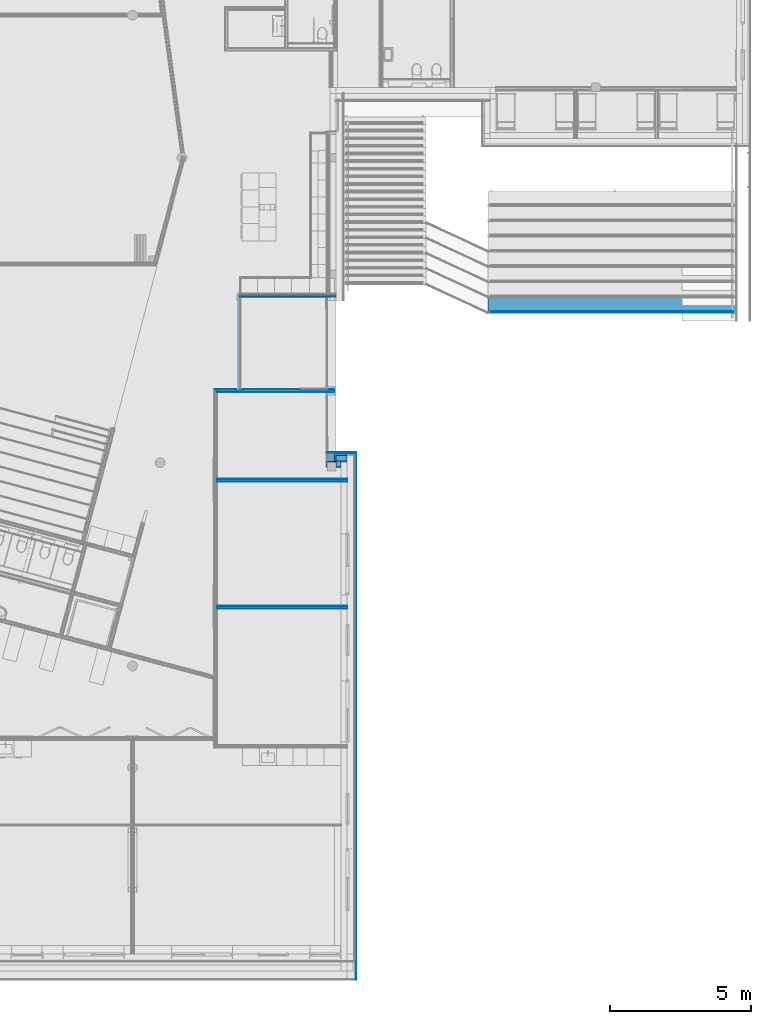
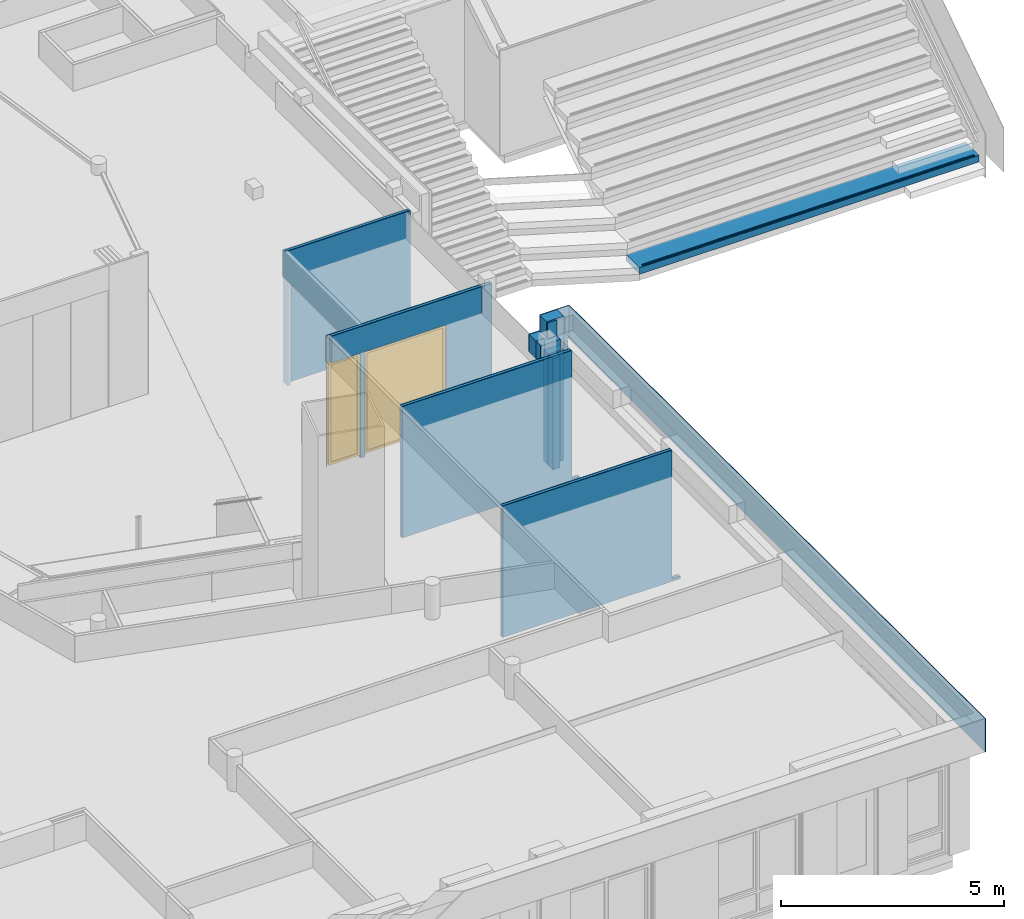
# One storey, part 67 of 167: 20 building element parts, 2 windows, 5 openings, 10 elements without a shape of their own, plus 2 elements that do not belong to this part.
"""IFC2X3 building model written with IfcOpenShell, lengths in millimetres."""

from ifc_helpers import new_model, entity, si_unit, converted_unit, derived_unit, money_unit, direction, frame, origin_with_axes, place, context, subcontext, project, spatial, open_shell, faceted_brep, surface_model, material, type_object, element, fill, aggregate, save


model = new_model("IFC2X3")

# Units and contexts
model_context = context("Model", 3, precision=0.01, world=origin_with_axes(), true_north=direction((0.0, 1.0)))
plan_context = context("Plan", 3, precision=0.01, world=origin_with_axes(), true_north=direction((0.0, 1.0)))
body_context = subcontext(model_context, "Body", "Model", "MODEL_VIEW")
ifc_project = project(units=[si_unit("LENGTHUNIT", "METRE", prefix="MILLI"), si_unit("AREAUNIT", "SQUARE_METRE"), si_unit("VOLUMEUNIT", "CUBIC_METRE"), converted_unit("PLANEANGLEUNIT", "DEGREE", entity("IfcPlaneAngleMeasure", 0.0174532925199), si_unit("PLANEANGLEUNIT", "RADIAN"), dimensions=[0, 0, 0, 0, 0, 0, 0]), si_unit("SOLIDANGLEUNIT", "STERADIAN"), money_unit("EUR"), converted_unit("TIMEUNIT", "Year", entity("IfcTimeMeasure", 31556926.0), si_unit("TIMEUNIT", "SECOND"), dimensions=[0, 0, 1, 0, 0, 0, 0]), si_unit("MASSUNIT", "GRAM", prefix="KILO"), si_unit("THERMODYNAMICTEMPERATUREUNIT", "DEGREE_CELSIUS"), si_unit("LUMINOUSINTENSITYUNIT", "LUMEN"), si_unit("ENERGYUNIT", "JOULE", prefix="MEGA"), derived_unit("THERMALCONDUCTANCEUNIT", [(si_unit("POWERUNIT", "WATT"), 1), (si_unit("LENGTHUNIT", "METRE"), -1), (si_unit("THERMODYNAMICTEMPERATUREUNIT", "KELVIN"), -1)]), derived_unit("SPECIFICHEATCAPACITYUNIT", [(si_unit("ENERGYUNIT", "JOULE"), 1), (si_unit("MASSUNIT", "GRAM", prefix="KILO"), -1), (si_unit("THERMODYNAMICTEMPERATUREUNIT", "KELVIN"), -1)]), derived_unit("MASSDENSITYUNIT", [(si_unit("MASSUNIT", "GRAM", prefix="KILO"), 1), (si_unit("VOLUMEUNIT", "CUBIC_METRE"), -1)])], contexts=[model_context, plan_context])

# Site, building, storey
site_placement = place(None, origin_with_axes())
site = spatial("IfcSite", under=ifc_project, at=site_placement, Name="Site", CompositionType="ELEMENT")
building_placement = place(site_placement, origin_with_axes())
building = spatial("IfcBuilding", under=site, at=building_placement, Name="Naam gebouw", CompositionType="ELEMENT")
storey_placement = place(building_placement, origin_with_axes())
storey = spatial("IfcBuildingStorey", under=building, at=storey_placement, Name="Begane grond", CompositionType="ELEMENT", Elevation=0.0)

# Window
window_style = type_object("IfcWindowStyle", Name="R1 24", ConstructionType="NOTDEFINED", OperationType="SINGLE_PANEL", ParameterTakesPrecedence=False, Sizeable=False)
wall_4_placement = place(storey_placement, frame((28750.0, 20550.0, -100.0), z_axis=(0.0, 0.0, 1.0), x_axis=(-1.0, 0.0, 0.0)))
opening_3_placement = place(wall_4_placement, frame((3814.63306518, 0.0, 100.0), z_axis=(0.0, 0.0, 1.0), x_axis=(1.0, 0.0, 0.0)))
window_1_placement = place(opening_3_placement, frame((406.396380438, 0.0, 0.0), z_axis=(0.0, 0.0, 1.0), x_axis=(-1.0, 0.0, 0.0)))
window_1 = element("IfcWindow", 1, at=window_1_placement, inside=storey, type_object=window_style, Name="31_Raam_Hi-29", ObjectType="WINDOW", OverallHeight=2800.0, OverallWidth=812.793, context=body_context, shape_type="SurfaceModel", body=[
    faceted_brep([(745.792760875, -30.0, 2733.0), (812.792760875, -30.0, 2733.0), (812.792760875, 50.0, 2733.0), (745.792760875, 50.0, 2733.0), (745.792760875, -30.0, 67.0), (812.792760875, -30.0, 67.0), (812.792760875, 50.0, 67.0), (745.792760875, 50.0, 67.0)], [[[0, 1, 2, 3]], [[0, 4, 5, 1]], [[1, 5, 6, 2]], [[3, 2, 6, 7]], [[4, 0, 3, 7]], [[5, 4, 7, 6]]]),
    faceted_brep([(67.0, -30.0, 67.0), (0.0, -30.0, 67.0), (0.0, 50.0, 67.0), (67.0, 50.0, 67.0), (67.0, -30.0, 2733.0), (0.0, -30.0, 2733.0), (0.0, 50.0, 2733.0), (67.0, 50.0, 2733.0)], [[[0, 1, 2, 3]], [[0, 4, 5, 1]], [[1, 5, 6, 2]], [[3, 2, 6, 7]], [[4, 0, 3, 7]], [[5, 4, 7, 6]]]),
    faceted_brep([(745.792760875, -30.0, 67.0), (812.792760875, -30.0, 67.0), (812.792760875, 50.0, 67.0), (745.792760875, 50.0, 67.0), (67.0, -30.0, 67.0), (0.0, -30.0, 67.0), (0.0, -30.0, 0.0), (812.792760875, -30.0, 0.0), (812.792760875, 50.0, 0.0), (0.0, 50.0, 0.0), (0.0, 50.0, 67.0), (67.0, 50.0, 67.0)], [[[0, 1, 2, 3]], [[0, 4, 5, 6, 7, 1]], [[1, 7, 8, 2]], [[3, 2, 8, 9, 10, 11]], [[4, 0, 3, 11]], [[5, 4, 11, 10]], [[6, 5, 10, 9]], [[7, 6, 9, 8]]]),
    faceted_brep([(67.0, -30.0, 2733.0), (0.0, -30.0, 2733.0), (0.0, 50.0, 2733.0), (67.0, 50.0, 2733.0), (745.792760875, -30.0, 2733.0), (812.792760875, -30.0, 2733.0), (812.792760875, -30.0, 2800.0), (0.0, -30.0, 2800.0), (0.0, 50.0, 2800.0), (812.792760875, 50.0, 2800.0), (812.792760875, 50.0, 2733.0), (745.792760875, 50.0, 2733.0)], [[[0, 1, 2, 3]], [[0, 4, 5, 6, 7, 1]], [[1, 7, 8, 2]], [[3, 2, 8, 9, 10, 11]], [[4, 0, 3, 11]], [[5, 4, 11, 10]], [[6, 5, 10, 9]], [[7, 6, 9, 8]]]),
    surface_model("IfcShellBasedSurfaceModel", [(745.792760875, -14.0, 67.0), (745.792760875, -14.0, 2733.0), (67.0, -14.0, 2733.0), (67.0, -14.0, 67.0)], [open_shell([[[0, 1, 2, 3]]])]),
    surface_model("IfcShellBasedSurfaceModel", [(745.792760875, 6.0, 67.0), (67.0, 6.0, 67.0), (67.0, 6.0, 2733.0), (745.792760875, 6.0, 2733.0)], [open_shell([[[0, 1, 2, 3]]])]),
])

opening_4_placement = place(wall_4_placement, frame((2240.55768609, 0.0, 100.0), z_axis=(0.0, 0.0, 1.0), x_axis=(1.0, 0.0, 0.0)))
window_2_placement = place(opening_4_placement, frame((1050.0, 0.0, 0.0), z_axis=(0.0, 0.0, 1.0), x_axis=(-1.0, 0.0, 0.0)))
window_2 = element("IfcWindow", 2, at=window_2_placement, inside=storey, type_object=window_style, Name="31_Raam_Hi-33", ObjectType="WINDOW", OverallHeight=2800.0, OverallWidth=2100.0, context=body_context, shape_type="SurfaceModel", body=[
    faceted_brep([(2033.0, -30.0, 2733.0), (2100.0, -30.0, 2733.0), (2100.0, 50.0, 2733.0), (2033.0, 50.0, 2733.0), (2033.0, -30.0, 67.0), (2100.0, -30.0, 67.0), (2100.0, 50.0, 67.0), (2033.0, 50.0, 67.0)], [[[0, 1, 2, 3]], [[0, 4, 5, 1]], [[1, 5, 6, 2]], [[3, 2, 6, 7]], [[4, 0, 3, 7]], [[5, 4, 7, 6]]]),
    faceted_brep([(67.0, -30.0, 67.0), (0.0, -30.0, 67.0), (0.0, 50.0, 67.0), (67.0, 50.0, 67.0), (67.0, -30.0, 2733.0), (0.0, -30.0, 2733.0), (0.0, 50.0, 2733.0), (67.0, 50.0, 2733.0)], [[[0, 1, 2, 3]], [[0, 4, 5, 1]], [[1, 5, 6, 2]], [[3, 2, 6, 7]], [[4, 0, 3, 7]], [[5, 4, 7, 6]]]),
    faceted_brep([(2033.0, -30.0, 67.0), (2100.0, -30.0, 67.0), (2100.0, 50.0, 67.0), (2033.0, 50.0, 67.0), (67.0, -30.0, 67.0), (0.0, -30.0, 67.0), (0.0, -30.0, 0.0), (2100.0, -30.0, 0.0), (2100.0, 50.0, 0.0), (0.0, 50.0, 0.0), (0.0, 50.0, 67.0), (67.0, 50.0, 67.0)], [[[0, 1, 2, 3]], [[0, 4, 5, 6, 7, 1]], [[1, 7, 8, 2]], [[3, 2, 8, 9, 10, 11]], [[4, 0, 3, 11]], [[5, 4, 11, 10]], [[6, 5, 10, 9]], [[7, 6, 9, 8]]]),
    faceted_brep([(67.0, -30.0, 2733.0), (0.0, -30.0, 2733.0), (0.0, 50.0, 2733.0), (67.0, 50.0, 2733.0), (2033.0, -30.0, 2733.0), (2100.0, -30.0, 2733.0), (2100.0, -30.0, 2800.0), (0.0, -30.0, 2800.0), (0.0, 50.0, 2800.0), (2100.0, 50.0, 2800.0), (2100.0, 50.0, 2733.0), (2033.0, 50.0, 2733.0)], [[[0, 1, 2, 3]], [[0, 4, 5, 6, 7, 1]], [[1, 7, 8, 2]], [[3, 2, 8, 9, 10, 11]], [[4, 0, 3, 11]], [[5, 4, 11, 10]], [[6, 5, 10, 9]], [[7, 6, 9, 8]]]),
    surface_model("IfcShellBasedSurfaceModel", [(2033.0, -14.0, 67.0), (2033.0, -14.0, 2733.0), (67.0, -14.0, 2733.0), (67.0, -14.0, 67.0)], [open_shell([[[0, 1, 2, 3]]])]),
    surface_model("IfcShellBasedSurfaceModel", [(2033.0, 6.0, 67.0), (67.0, 6.0, 67.0), (67.0, 6.0, 2733.0), (2033.0, 6.0, 2733.0)], [open_shell([[[0, 1, 2, 3]]])]),
])

# Wall, openings, building element part
wall_type_1 = type_object("IfcWallType", Name="_TenW_21_E-BOARD_V1_standaard 538", PredefinedType="NOTDEFINED")
wall_1_placement = place(storey_placement, frame((29200.0, 0.0, 3050.0), z_axis=(0.0, 0.0, 1.0), x_axis=(0.0, 1.0, 0.0)))
wall_1 = element("IfcWall", 3, at=wall_1_placement, inside=storey, type_object=wall_type_1, Name="21_Wand_Wand-x")
opening_1_placement = place(wall_1_placement, frame((0.0, 29200.0, -3050.0), z_axis=(0.0, 0.0, 1.0), x_axis=(0.0, -1.0, 0.0)))
element("IfcOpeningElement", 4, at=opening_1_placement, cuts=wall_1, Name="_Lege opening_Doorvoer-x", context=body_context, shape_type="Brep", body=[
    faceted_brep([(29400.0, 8111.53471311, 3050.0), (29400.0, 8111.53471311, 3530.0), (28986.0, 8111.53471311, 3530.0), (28986.0, 8111.53471311, 3050.0), (29400.0, 10271.4347131, 3050.0), (29400.0, 10271.4347131, 3530.0), (28986.0, 10271.4347131, 3530.0), (28986.0, 10271.4347131, 3050.0)], [[[0, 1, 2, 3]], [[0, 4, 5, 1]], [[1, 5, 6, 2]], [[3, 2, 6, 7]], [[4, 0, 3, 7]], [[5, 4, 7, 6]]]),
])
opening_2_placement = place(wall_1_placement, frame((0.0, 29200.0, -3050.0), z_axis=(0.0, 0.0, 1.0), x_axis=(0.0, -1.0, 0.0)))
element("IfcOpeningElement", 5, at=opening_2_placement, cuts=wall_1, Name="_Lege opening_Doorvoer-x", context=body_context, shape_type="Brep", body=[
    faceted_brep([(29456.0, 13320.0149885, 3050.0), (29456.0, 13320.0149885, 3530.0), (28986.0, 13320.0149885, 3530.0), (28986.0, 13320.0149885, 3050.0), (29456.0, 15479.9149885, 3050.0), (29456.0, 15479.9149885, 3530.0), (28986.0, 15479.9149885, 3530.0), (28986.0, 15479.9149885, 3050.0)], [[[0, 1, 2, 3]], [[0, 4, 5, 1]], [[1, 5, 6, 2]], [[3, 2, 6, 7]], [[4, 0, 3, 7]], [[5, 4, 7, 6]]]),
])
ifc_material_1 = material(Name="_TenW_21_Steen - Baksteen")
building_element_part_1_placement = place(wall_1_placement, origin_with_axes())
building_element_part_1 = element("IfcBuildingElementPart", 6, at=building_element_part_1_placement, material=ifc_material_1, Name="_TenW_21_Steen - Baksteen", context=body_context, shape_type="Brep", body=[
    faceted_brep([(18374.0, -324.0, 0.0), (-324.0, -324.0, 0.0), (-324.0, -304.0, 0.0), (18374.0, -304.0, 0.0), (18374.0, -324.0, 910.0), (-324.0, -324.0, 910.0), (-324.0, -304.0, 910.0), (18374.0, -304.0, 910.0)], [[[0, 1, 2, 3]], [[4, 5, 1, 0]], [[2, 1, 5, 6]], [[3, 2, 6, 7]], [[3, 7, 4, 0]], [[7, 6, 5, 4]]]),
])
aggregate(wall_1, [building_element_part_1])

# Wall, building element parts
wall_type_2 = type_object("IfcWallType", Name="_TenW_22_Metalstud 100 enkel gipsvezelplaat 100", PredefinedType="NOTDEFINED")
wall_2_placement = place(storey_placement, frame((29200.0, 12875.0, -100.0), z_axis=(0.0, 0.0, 1.0), x_axis=(-1.0, 0.0, 0.0)))
wall_2 = element("IfcWall", 7, at=wall_2_placement, inside=storey, type_object=wall_type_2, Name="22_Wand_Wand-x")
ifc_material_2 = material(Name="Gipsplaat watervast")
building_element_part_2_placement = place(wall_2_placement, origin_with_axes())
building_element_part_2 = element("IfcBuildingElementPart", 8, at=building_element_part_2_placement, material=ifc_material_2, Name="Gipsplaat watervast", context=body_context, shape_type="Brep", body=[
    faceted_brep([(4600.0, 37.5, 3630.0), (214.0, 37.5, 3630.0), (214.0, 37.5, 100.0), (0.0, 37.5, 100.0), (0.0, 37.5, 30.0), (4600.0, 37.5, 30.0), (214.0, 50.0, 3630.0), (4600.0, 50.0, 3630.0), (214.0, 50.0, 100.0), (0.0, 50.0, 100.0), (0.0, 50.0, 30.0), (4600.0, 50.0, 30.0)], [[[0, 1, 2, 3, 4, 5]], [[6, 1, 0, 7]], [[1, 6, 8, 2]], [[8, 9, 3, 2]], [[10, 4, 3, 9]], [[5, 4, 10, 11]], [[7, 0, 5, 11]], [[6, 7, 11, 10, 9, 8]]]),
])
ifc_material_3 = material(Name="Isolatie - Steenwol zacht")
building_element_part_3_placement = place(wall_2_placement, origin_with_axes())
building_element_part_3 = element("IfcBuildingElementPart", 9, at=building_element_part_3_placement, material=ifc_material_3, Name="Isolatie - Steenwol zacht", context=body_context, shape_type="Brep", body=[
    faceted_brep([(4612.5, -37.5, 3630.0), (214.0, -37.5, 3630.0), (214.0, -37.5, 100.0), (0.0, -37.5, 100.0), (0.0, -37.5, 30.0), (4612.5, -37.5, 30.0), (214.0, 37.5, 3630.0), (4612.5, 37.5, 3630.0), (214.0, 37.5, 100.0), (0.0, 37.5, 100.0), (0.0, 37.5, 30.0), (4612.5, 37.5, 30.0)], [[[0, 1, 2, 3, 4, 5]], [[6, 1, 0, 7]], [[1, 6, 8, 2]], [[8, 9, 3, 2]], [[10, 4, 3, 9]], [[5, 4, 10, 11]], [[7, 0, 5, 11]], [[6, 7, 11, 10, 9, 8]]]),
])
building_element_part_4_placement = place(wall_2_placement, origin_with_axes())
building_element_part_4 = element("IfcBuildingElementPart", 10, at=building_element_part_4_placement, material=ifc_material_2, Name="Gipsplaat watervast", context=body_context, shape_type="Brep", body=[
    faceted_brep([(4600.0, -50.0, 3630.0), (214.0, -50.0, 3630.0), (214.0, -50.0, 100.0), (0.0, -50.0, 100.0), (0.0, -50.0, 30.0), (4600.0, -50.0, 30.0), (214.0, -37.5, 3630.0), (4600.0, -37.5, 3630.0), (214.0, -37.5, 100.0), (0.0, -37.5, 100.0), (0.0, -37.5, 30.0), (4600.0, -37.5, 30.0)], [[[0, 1, 2, 3, 4, 5]], [[6, 1, 0, 7]], [[1, 6, 8, 2]], [[8, 9, 3, 2]], [[10, 4, 3, 9]], [[5, 4, 10, 11]], [[7, 0, 5, 11]], [[6, 7, 11, 10, 9, 8]]]),
])
aggregate(wall_2, [building_element_part_2, building_element_part_3, building_element_part_4])

wall_3_placement = place(storey_placement, frame((29200.0, 17375.0, -100.0), z_axis=(0.0, 0.0, 1.0), x_axis=(-1.0, 0.0, 0.0)))
wall_3 = element("IfcWall", 11, at=wall_3_placement, inside=storey, type_object=wall_type_2, Name="22_Wand_Wand-x")
building_element_part_5_placement = place(wall_3_placement, origin_with_axes())
building_element_part_5 = element("IfcBuildingElementPart", 12, at=building_element_part_5_placement, material=ifc_material_2, Name="Gipsplaat watervast", context=body_context, shape_type="Brep", body=[
    faceted_brep([(4600.0, 37.5, 3630.0), (214.0, 37.5, 3630.0), (214.0, 37.5, 100.0), (0.0, 37.5, 100.0), (0.0, 37.5, 30.0), (4600.0, 37.5, 30.0), (214.0, 50.0, 3630.0), (4600.0, 50.0, 3630.0), (214.0, 50.0, 100.0), (0.0, 50.0, 100.0), (0.0, 50.0, 30.0), (4600.0, 50.0, 30.0)], [[[0, 1, 2, 3, 4, 5]], [[6, 1, 0, 7]], [[1, 6, 8, 2]], [[8, 9, 3, 2]], [[10, 4, 3, 9]], [[5, 4, 10, 11]], [[7, 0, 5, 11]], [[6, 7, 11, 10, 9, 8]]]),
])
building_element_part_6_placement = place(wall_3_placement, origin_with_axes())
building_element_part_6 = element("IfcBuildingElementPart", 13, at=building_element_part_6_placement, material=ifc_material_3, Name="Isolatie - Steenwol zacht", context=body_context, shape_type="Brep", body=[
    faceted_brep([(4612.5, -37.5, 3630.0), (214.0, -37.5, 3630.0), (214.0, -37.5, 100.0), (0.0, -37.5, 100.0), (0.0, -37.5, 30.0), (4612.5, -37.5, 30.0), (214.0, 37.5, 3630.0), (4612.5, 37.5, 3630.0), (214.0, 37.5, 100.0), (0.0, 37.5, 100.0), (0.0, 37.5, 30.0), (4612.5, 37.5, 30.0)], [[[0, 1, 2, 3, 4, 5]], [[6, 1, 0, 7]], [[1, 6, 8, 2]], [[8, 9, 3, 2]], [[10, 4, 3, 9]], [[5, 4, 10, 11]], [[7, 0, 5, 11]], [[6, 7, 11, 10, 9, 8]]]),
])
building_element_part_7_placement = place(wall_3_placement, origin_with_axes())
building_element_part_7 = element("IfcBuildingElementPart", 14, at=building_element_part_7_placement, material=ifc_material_2, Name="Gipsplaat watervast", context=body_context, shape_type="Brep", body=[
    faceted_brep([(4600.0, -50.0, 3630.0), (214.0, -50.0, 3630.0), (214.0, -50.0, 100.0), (0.0, -50.0, 100.0), (0.0, -50.0, 30.0), (4600.0, -50.0, 30.0), (214.0, -37.5, 3630.0), (4600.0, -37.5, 3630.0), (214.0, -37.5, 100.0), (0.0, -37.5, 100.0), (0.0, -37.5, 30.0), (4600.0, -37.5, 30.0)], [[[0, 1, 2, 3, 4, 5]], [[6, 1, 0, 7]], [[1, 6, 8, 2]], [[8, 9, 3, 2]], [[10, 4, 3, 9]], [[5, 4, 10, 11]], [[7, 0, 5, 11]], [[6, 7, 11, 10, 9, 8]]]),
])
aggregate(wall_3, [building_element_part_5, building_element_part_6, building_element_part_7])

# Wall, opening
wall_4 = element("IfcWall", 15, at=wall_4_placement, inside=storey, type_object=wall_type_2, Name="22_Wand_Wand-x")
opening_3 = element("IfcOpeningElement", 16, at=opening_3_placement, cuts=wall_4, Name="31_Raam_Hi-29", context=body_context, shape_type="Brep", body=[
    faceted_brep([(406.396380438, -200.0, 2800.0), (406.396380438, -200.0, 0.0), (406.396380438, 100.0, 0.0), (406.396380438, 100.0, 2800.0), (-406.396380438, -200.0, 2800.0), (-406.396380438, -200.0, 0.0), (-406.396380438, 100.0, 0.0), (-406.396380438, 100.0, 2800.0)], [[[0, 1, 2, 3]], [[0, 4, 5, 1]], [[1, 5, 6, 2]], [[3, 2, 6, 7]], [[4, 0, 3, 7]], [[5, 4, 7, 6]]]),
])

fill(opening_3, window_1)

# Opening
opening_4 = element("IfcOpeningElement", 17, at=opening_4_placement, cuts=wall_4, Name="31_Raam_Hi-33", context=body_context, shape_type="Brep", body=[
    faceted_brep([(1050.0, -200.0, 2800.0), (1050.0, -200.0, 0.0), (1050.0, 100.0, 0.0), (1050.0, 100.0, 2800.0), (-1050.0, -200.0, 2800.0), (-1050.0, -200.0, 0.0), (-1050.0, 100.0, 0.0), (-1050.0, 100.0, 2800.0)], [[[0, 1, 2, 3]], [[0, 4, 5, 1]], [[1, 5, 6, 2]], [[3, 2, 6, 7]], [[4, 0, 3, 7]], [[5, 4, 7, 6]]]),
])

fill(opening_4, window_2)

# Building element part
building_element_part_8_placement = place(wall_4_placement, origin_with_axes())
building_element_part_8 = element("IfcBuildingElementPart", 18, at=building_element_part_8_placement, material=ifc_material_2, Name="Gipsplaat watervast", context=body_context, shape_type="Brep", body=[
    faceted_brep([(3408.23668474, 37.5, 2900.0), (4150.0, 37.5, 2900.0), (4150.0, 37.5, 3630.0), (274.635118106, 37.5, 3630.0), (274.635118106, 37.5, 2900.0), (249.635050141, 37.5, 2900.0), (249.635050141, 37.5, 3630.0), (0.0, 37.5, 3630.0), (0.0, 37.5, 30.0), (1190.55768609, 37.5, 30.0), (1190.55768609, 37.5, 100.0), (1190.55768609, 37.5, 2900.0), (3290.55768609, 37.5, 2900.0), (3290.55768609, 37.5, 100.0), (3290.55768609, 37.5, 30.0), (3408.23668474, 37.5, 30.0), (3408.23668474, 37.5, 100.0), (3408.23668474, 50.0000111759, 2900.0), (4149.99998882, 50.0000111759, 2900.0), (4150.0, 50.0, 3630.0), (274.605971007, 50.0, 3630.0), (274.605971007, 50.0, 2900.0), (249.605903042, 50.0, 2900.0), (249.605903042, 50.0, 3630.0), (0.0, 50.0, 3630.0), (0.0, 50.0, 30.0), (1190.55768609, 50.0, 30.0), (1190.55768609, 50.0, 100.0), (1190.55768609, 50.0, 2900.0), (3290.55768609, 50.0, 2900.0), (3290.55768609, 50.0, 100.0), (3290.55768609, 50.0, 30.0), (3408.23668474, 50.0, 30.0), (3408.23668474, 50.0000111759, 100.0)], [[[0, 1, 2, 3, 4, 5, 6, 7, 8, 9, 10, 11, 12, 13, 14, 15, 16]], [[1, 0, 17, 18]], [[1, 18, 19, 2]], [[19, 20, 3, 2]], [[3, 20, 21, 4]], [[4, 21, 22, 5]], [[23, 6, 5, 22]], [[24, 7, 6, 23]], [[7, 24, 25, 8]], [[26, 9, 8, 25]], [[26, 27, 10, 9]], [[28, 11, 10, 27]], [[29, 12, 11, 28]], [[30, 13, 12, 29]], [[14, 13, 30, 31]], [[32, 15, 14, 31]], [[33, 16, 15, 32]], [[0, 16, 33, 17]], [[17, 33, 32, 31, 30, 29, 28, 27, 26, 25, 24, 23, 22, 21, 20, 19, 18]]]),
])

building_element_part_9_placement = place(wall_4_placement, origin_with_axes())
building_element_part_9 = element("IfcBuildingElementPart", 19, at=building_element_part_9_placement, material=ifc_material_3, Name="Isolatie - Steenwol zacht", context=body_context, shape_type="Brep", body=[
    faceted_brep([(3408.23668474, -37.5, 2900.0), (4162.5, -37.5, 2900.0), (4162.5, -37.5, 3630.0), (0.0, -37.5, 3630.0), (0.0, -37.5, 30.0), (1190.55768609, -37.5, 30.0), (1190.55768609, -37.5, 100.0), (1190.55768609, -37.5, 2900.0), (3290.55768609, -37.5, 2900.0), (3290.55768609, -37.5, 100.0), (3290.55768609, -37.5, 30.0), (3408.23668474, -37.5, 30.0), (3408.23668474, -37.5, 100.0), (3408.23668474, 37.5, 2900.0), (4162.5, 37.5, 2900.0), (4162.5, 37.5, 3630.0), (0.0, 37.5, 3630.0), (0.0, 37.5, 30.0), (1190.55768609, 37.5, 30.0), (1190.55768609, 37.5, 100.0), (1190.55768609, 37.5, 2900.0), (3290.55768609, 37.5, 2900.0), (3290.55768609, 37.5, 100.0), (3290.55768609, 37.5, 30.0), (3408.23668474, 37.5, 30.0), (3408.23668474, 37.5, 100.0)], [[[0, 1, 2, 3, 4, 5, 6, 7, 8, 9, 10, 11, 12]], [[1, 0, 13, 14]], [[1, 14, 15, 2]], [[16, 3, 2, 15]], [[3, 16, 17, 4]], [[18, 5, 4, 17]], [[18, 19, 6, 5]], [[20, 7, 6, 19]], [[21, 8, 7, 20]], [[22, 9, 8, 21]], [[10, 9, 22, 23]], [[24, 11, 10, 23]], [[25, 12, 11, 24]], [[0, 12, 25, 13]], [[13, 25, 24, 23, 22, 21, 20, 19, 18, 17, 16, 15, 14]]]),
])

building_element_part_10_placement = place(wall_4_placement, origin_with_axes())
building_element_part_10 = element("IfcBuildingElementPart", 20, at=building_element_part_10_placement, material=ifc_material_2, Name="Gipsplaat watervast", context=body_context, shape_type="Brep", body=[
    faceted_brep([(4221.02944562, -50.0, 2900.0), (4221.02944562, -50.0, 100.0), (4221.02944562, -50.0, 30.0), (4237.5, -50.0, 30.0), (4237.5, -50.0, 3630.0), (3403.05768609, -50.0, 3630.0), (3403.05768609, -50.0, 30.0), (3408.23668474, -50.0, 30.0), (3408.23668474, -50.0, 100.0), (3408.23668474, -50.0, 2900.0), (4221.02944562, -37.5, 2900.0), (4221.02944562, -37.5, 100.0), (4221.02944562, -37.5, 30.0), (4237.5, -37.5, 30.0), (4237.5, -37.5, 3630.0), (3403.05768609, -37.5, 3630.0), (3403.05768609, -37.5, 30.0), (3408.23668474, -37.5, 30.0), (3408.23668474, -37.5, 100.0), (3408.23668474, -37.5, 2900.0)], [[[0, 1, 2, 3, 4, 5, 6, 7, 8, 9]], [[1, 0, 10, 11]], [[1, 11, 12, 2]], [[3, 2, 12, 13]], [[13, 14, 4, 3]], [[14, 15, 5, 4]], [[6, 5, 15, 16]], [[16, 17, 7, 6]], [[18, 8, 7, 17]], [[9, 8, 18, 19]], [[0, 9, 19, 10]], [[19, 18, 17, 16, 15, 14, 13, 12, 11, 10]]]),
    faceted_brep([(3290.55768609, -50.0, 2900.0), (3290.55768609, -50.0, 100.0), (3290.55768609, -50.0, 30.0), (3328.05768609, -50.0, 30.0), (3328.05768609, -50.0, 3630.0), (274.839147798, -50.0, 3630.0), (274.839147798, -50.0, 2900.0), (249.839079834, -50.0, 2900.0), (249.839079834, -50.0, 3630.0), (0.0, -50.0, 3630.0), (0.0, -50.0, 30.0), (1190.55768609, -50.0, 30.0), (1190.55768609, -50.0, 100.0), (1190.55768609, -50.0, 2900.0), (3290.55768609, -37.5, 2900.0), (3290.55768609, -37.5, 100.0), (3290.55768609, -37.5, 30.0), (3328.05768609, -37.5, 30.0), (3328.05768609, -37.5, 3630.0), (274.810000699, -37.5, 3630.0), (274.810000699, -37.5, 2900.0), (249.809932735, -37.5, 2900.0), (249.809932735, -37.5, 3630.0), (0.0, -37.5, 3630.0), (0.0, -37.5, 30.0), (1190.55768609, -37.5, 30.0), (1190.55768609, -37.5, 100.0), (1190.55768609, -37.5, 2900.0)], [[[0, 1, 2, 3, 4, 5, 6, 7, 8, 9, 10, 11, 12, 13]], [[1, 0, 14, 15]], [[1, 15, 16, 2]], [[16, 17, 3, 2]], [[4, 3, 17, 18]], [[19, 5, 4, 18]], [[19, 20, 6, 5]], [[20, 21, 7, 6]], [[8, 7, 21, 22]], [[9, 8, 22, 23]], [[23, 24, 10, 9]], [[11, 10, 24, 25]], [[26, 12, 11, 25]], [[13, 12, 26, 27]], [[0, 13, 27, 14]], [[27, 26, 25, 24, 23, 22, 21, 20, 19, 18, 17, 16, 15, 14]]]),
])

aggregate(wall_4, [building_element_part_8, building_element_part_9, building_element_part_10])

# Wall, building element parts
wall_5_placement = place(storey_placement, frame((28800.0, 23929.2322881, -100.0), z_axis=(0.0, 0.0, 1.0), x_axis=(-1.0, 0.0, 0.0)))
wall_5 = element("IfcWall", 21, at=wall_5_placement, inside=storey, type_object=wall_type_2, Name="22_Wand_Wand-x")
building_element_part_11_placement = place(wall_5_placement, origin_with_axes())
building_element_part_11 = element("IfcBuildingElementPart", 22, at=building_element_part_11_placement, material=ifc_material_2, Name="Gipsplaat watervast", context=body_context, shape_type="Brep", body=[
    faceted_brep([(3378.05768609, 37.5, 3630.0), (213.999999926, 37.5, 3630.0), (214.0, 37.5, 100.0), (0.0, 37.5, 100.0), (0.0, 37.5, 30.0), (3378.05768609, 37.5, 30.0), (213.999999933, 50.0, 3630.0), (3378.05768609, 50.0, 3630.0), (214.0, 50.0, 100.0), (0.0, 50.0, 100.0), (0.0, 50.0, 30.0), (3378.05768609, 50.0, 30.0)], [[[0, 1, 2, 3, 4, 5]], [[6, 1, 0, 7]], [[1, 6, 8, 2]], [[8, 9, 3, 2]], [[10, 4, 3, 9]], [[5, 4, 10, 11]], [[7, 0, 5, 11]], [[6, 7, 11, 10, 9, 8]]]),
])
building_element_part_12_placement = place(wall_5_placement, origin_with_axes())
building_element_part_12 = element("IfcBuildingElementPart", 23, at=building_element_part_12_placement, material=ifc_material_3, Name="Isolatie - Steenwol zacht", context=body_context, shape_type="Brep", body=[
    faceted_brep([(3453.05768609, -37.5, 3630.0), (213.999999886, -37.5, 3630.0), (214.0, -37.5, 100.0), (0.0, -37.5, 100.0), (0.0, -37.5, 30.0), (3453.05768609, -37.5, 30.0), (213.999999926, 37.5, 3630.0), (3453.05768609, 37.5, 3630.0), (214.0, 37.5, 100.0), (0.0, 37.5, 100.0), (0.0, 37.5, 30.0), (3453.05768609, 37.5, 30.0)], [[[0, 1, 2, 3, 4, 5]], [[6, 1, 0, 7]], [[1, 6, 8, 2]], [[8, 9, 3, 2]], [[10, 4, 3, 9]], [[5, 4, 10, 11]], [[7, 0, 5, 11]], [[6, 7, 11, 10, 9, 8]]]),
])
aggregate(wall_5, [building_element_part_11, building_element_part_12])

# Wall, opening, building element parts
wall_6_placement = place(storey_placement, frame((25384.4423139, 23929.2322881, -100.0), z_axis=(0.0, 0.0, 1.0), x_axis=(0.0, -1.0, 0.0)))
wall_6 = element("IfcWall", 24, at=wall_6_placement, inside=storey, type_object=wall_type_2, Name="22_Wand_Wand-x")
opening_5_placement = place(wall_6_placement, frame((1752.44578806, 0.0, 100.0), z_axis=(0.0, 0.0, 1.0), x_axis=(1.0, 0.0, 0.0)))
element("IfcOpeningElement", 25, at=opening_5_placement, cuts=wall_6, Name="32_Deur_Hi-51", context=body_context, shape_type="Brep", body=[
    faceted_brep([(-1575.0, 200.0, 2800.0), (-1575.0, 200.0, 0.0), (-1575.0, -100.0, 0.0), (-1575.0, -100.0, 2800.0), (1575.0, 200.0, 2800.0), (1575.0, 200.0, 0.0), (1575.0, -100.0, 0.0), (1575.0, -100.0, 2800.0)], [[[0, 1, 2, 3]], [[0, 4, 5, 1]], [[1, 5, 6, 2]], [[3, 2, 6, 7]], [[4, 0, 3, 7]], [[5, 4, 7, 6]]]),
])
building_element_part_13_placement = place(wall_6_placement, origin_with_axes())
building_element_part_13 = element("IfcBuildingElementPart", 26, at=building_element_part_13_placement, material=ifc_material_3, Name="Isolatie - Steenwol zacht", context=body_context, shape_type="Brep", body=[
    faceted_brep([(3327.44578806, 37.5, 100.0), (3327.44578806, 37.5, 2900.0), (177.445788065, 37.5, 2900.0), (177.445788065, 37.5, 100.0), (177.445788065, 37.5, 30.0), (37.5, 37.5, 30.0), (37.5, 37.5, 3630.0), (3341.73228815, 37.5, 3630.0), (3341.73228815, 37.5, 30.0), (3327.44578806, 37.5, 30.0), (3327.44578806, -37.5, 100.0), (3327.44578806, -37.5, 2900.0), (177.445788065, -37.5, 2900.0), (177.445788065, -37.5, 100.0), (177.445788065, -37.5, 30.0), (37.5, -37.5, 30.0), (37.5, -37.5, 3630.0), (3341.73228815, -37.5, 3630.0), (3341.73228815, -37.5, 30.0), (3327.44578806, -37.5, 30.0)], [[[0, 1, 2, 3, 4, 5, 6, 7, 8, 9]], [[1, 0, 10, 11]], [[2, 1, 11, 12]], [[3, 2, 12, 13]], [[3, 13, 14, 4]], [[14, 15, 5, 4]], [[6, 5, 15, 16]], [[6, 16, 17, 7]], [[17, 18, 8, 7]], [[9, 8, 18, 19]], [[10, 0, 9, 19]], [[11, 10, 19, 18, 17, 16, 15, 14, 13, 12]]]),
])
building_element_part_14_placement = place(wall_6_placement, origin_with_axes())
building_element_part_14 = element("IfcBuildingElementPart", 27, at=building_element_part_14_placement, material=ifc_material_2, Name="Gipsplaat watervast", context=body_context, shape_type="Brep", body=[
    faceted_brep([(3327.44578806, -37.5, 30.0), (3327.44578806, -37.5, 100.0), (3327.44578806, -37.5, 2900.0), (177.445788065, -37.5, 2900.0), (177.445788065, -37.5, 100.0), (177.445788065, -37.5, 30.0), (-37.5, -37.5, 30.0), (-37.5, -37.5, 3630.0), (3329.23228815, -37.5, 3630.0), (3329.23228815, -37.5, 30.0), (3327.44578806, -50.0, 30.0), (3327.44578806, -50.0, 100.0), (3327.44578806, -50.0, 2900.0), (177.445788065, -50.0, 2900.0), (177.445788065, -50.0, 100.0), (177.445788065, -50.0, 30.0), (-37.5, -50.0, 30.0), (-37.5, -50.0, 3630.0), (3329.23228815, -50.0, 3630.0), (3329.23228815, -50.0, 30.0)], [[[0, 1, 2, 3, 4, 5, 6, 7, 8, 9]], [[10, 11, 1, 0]], [[12, 2, 1, 11]], [[13, 3, 2, 12]], [[14, 4, 3, 13]], [[5, 4, 14, 15]], [[5, 15, 16, 6]], [[17, 7, 6, 16]], [[8, 7, 17, 18]], [[8, 18, 19, 9]], [[10, 0, 9, 19]], [[13, 12, 11, 10, 19, 18, 17, 16, 15, 14]]]),
])
aggregate(wall_6, [building_element_part_13, building_element_part_14])

# Wall, building element parts
wall_7_placement = place(storey_placement, frame((29200.0, 18050.0, 3050.0), z_axis=(0.0, 0.0, 1.0), x_axis=(-1.0, 0.0, 0.0)))
wall_7 = element("IfcWall", 28, at=wall_7_placement, inside=storey, type_object=wall_type_1, Name="21_Wand_Wand-x")
ifc_material_4 = material(Name="Steen - Kalkzandsteen C")
building_element_part_15_placement = place(wall_7_placement, origin_with_axes())
building_element_part_15 = element("IfcBuildingElementPart", 29, at=building_element_part_15_placement, material=ifc_material_4, Name="Steen - Kalkzandsteen C", context=body_context, shape_type="Brep", body=[
    faceted_brep([(450.0, 50.0, 910.0), (450.0, 50.0, 480.0), (214.0, 50.0, 480.0), (214.0, 50.0, 910.0), (450.0, 0.0, 910.0), (450.0, 0.0, 480.0), (214.0, 214.0, 480.0), (727.317280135, 0.0, 480.0), (727.317280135, 214.0, 480.0), (214.0, 214.0, 0.0), (214.0, 0.0, 0.0), (214.0, 0.0, 910.0), (727.317280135, 0.0, 0.0), (727.317280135, 214.0, 0.0)], [[[0, 1, 2, 3]], [[1, 0, 4, 5]], [[6, 2, 1, 5, 7, 8]], [[2, 6, 9, 10, 11, 3]], [[0, 3, 11, 4]], [[7, 5, 4, 11, 10, 12]], [[8, 7, 12, 13]], [[6, 8, 13, 9]], [[12, 10, 9, 13]]]),
])
building_element_part_16_placement = place(wall_7_placement, origin_with_axes())
building_element_part_16 = element("IfcBuildingElementPart", 30, at=building_element_part_16_placement, material=ifc_material_3, Name="Isolatie - Steenwol zacht", context=body_context, shape_type="Brep", body=[
    faceted_brep([(727.317280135, -304.0, 480.0), (450.0, -304.0, 480.0), (450.0, -304.0, 910.0), (0.0, -304.0, 910.0), (0.0, -304.0, 0.0), (727.317280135, -304.0, 0.0), (727.317280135, 0.0, 480.0), (450.0, 0.0, 480.0), (450.0, 0.0, 910.0), (0.0, 0.0, 910.0), (0.0, 0.0, 0.0), (727.317280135, 0.0, 0.0)], [[[0, 1, 2, 3, 4, 5]], [[1, 0, 6, 7]], [[2, 1, 7, 8]], [[2, 8, 9, 3]], [[10, 4, 3, 9]], [[5, 4, 10, 11]], [[6, 0, 5, 11]], [[7, 6, 11, 10, 9, 8]]]),
])
building_element_part_17_placement = place(wall_7_placement, origin_with_axes())
building_element_part_17 = element("IfcBuildingElementPart", 31, at=building_element_part_17_placement, material=ifc_material_1, Name="_TenW_21_Steen - Baksteen", context=body_context, shape_type="Brep", body=[
    faceted_brep([(727.317280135, -324.0, 480.0), (450.0, -324.0, 480.0), (450.0, -324.0, 910.0), (-304.0, -324.0, 910.0), (-304.0, -324.0, 0.0), (727.317280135, -324.0, 0.0), (727.317280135, -304.0, 480.0), (450.0, -304.0, 480.0), (450.0, -304.0, 910.0), (-304.0, -304.0, 910.0), (-304.0, -304.0, 0.0), (727.317280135, -304.0, 0.0)], [[[0, 1, 2, 3, 4, 5]], [[1, 0, 6, 7]], [[2, 1, 7, 8]], [[2, 8, 9, 3]], [[10, 4, 3, 9]], [[5, 4, 10, 11]], [[6, 0, 5, 11]], [[7, 6, 11, 10, 9, 8]]]),
])
aggregate(wall_7, [building_element_part_15, building_element_part_16, building_element_part_17])

# Stair, member, building element parts
stair_placement = place(storey_placement, frame((34186.0021329, 23294.6820704, 0.0), z_axis=(0.0, 0.0, 1.0), x_axis=(1.0, 0.0, 0.0)))
stair = element("IfcStair", 32, at=stair_placement, inside=storey, Name="_Trap_Trap-x", ShapeType="NOTDEFINED")
member_type = type_object("IfcMemberType", Name="IfcMember", PredefinedType="USERDEFINED")
member_placement = place(stair_placement, frame((4499.99573192, -3.60825808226, 360.0), z_axis=(0.0, 0.0, 1.0), x_axis=(0.999999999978, -6.66713791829e-06, 0.0)))
member = element("IfcMember", 33, at=member_placement, type_object=member_type, Name="_Trap - trede_Traptrede-x")
aggregate(stair, [member])
ifc_material_5 = material(Name="Beton gewapend prefab")
building_element_part_18_placement = place(member_placement, origin_with_axes())
building_element_part_18 = element("IfcBuildingElementPart", 34, at=building_element_part_18_placement, material=ifc_material_5, Name="Beton gewapend prefab", context=body_context, shape_type="Brep", body=[
    faceted_brep([(-4500.0, 0.0, -180.0), (4299.97799864, 0.0, -180.0), (4299.97799864, 0.0, 0.0), (-4500.0, 0.0, 0.0), (-4500.0, 600.000029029, -180.0), (4299.97799864, 599.999953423, -180.0), (4299.97799864, 599.999953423, 0.0), (-4500.0, 600.000029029, 0.0)], [[[0, 1, 2, 3]], [[0, 4, 5, 1]], [[1, 5, 6, 2]], [[3, 2, 6, 7]], [[4, 0, 3, 7]], [[5, 4, 7, 6]]]),
])
ifc_material_6 = material(Name="Beton gewapend prefab vloer")
building_element_part_19_placement = place(member_placement, origin_with_axes())
building_element_part_19 = element("IfcBuildingElementPart", 35, at=building_element_part_19_placement, material=ifc_material_6, Name="Beton gewapend prefab vloer", context=body_context, shape_type="Brep", body=[
    faceted_brep([(-4399.99998776, 19.9999499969, 0.0), (-4399.99998776, 29.9999499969, 0.0), (4199.9779864, 29.9999499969, 0.0), (4199.9779864, 19.9999499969, 0.0), (-4399.99998776, 19.9999499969, 3.0), (-4399.99998776, 29.9999499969, 3.0), (4199.9779864, 29.9999499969, 3.0), (4199.9779864, 19.9999499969, 3.0)], [[[0, 1, 2, 3]], [[0, 4, 5, 1]], [[1, 5, 6, 2]], [[3, 2, 6, 7]], [[4, 0, 3, 7]], [[5, 4, 7, 6]]]),
    faceted_brep([(-4399.99998776, 45.0000186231, 0.0), (-4399.99998776, 55.0000186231, 0.0), (4199.9779864, 55.0000186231, 0.0), (4199.9779864, 45.0000186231, 0.0), (-4399.99998776, 45.0000186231, 3.0), (-4399.99998776, 55.0000186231, 3.0), (4199.9779864, 55.0000186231, 3.0), (4199.9779864, 45.0000186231, 3.0)], [[[0, 1, 2, 3]], [[0, 4, 5, 1]], [[1, 5, 6, 2]], [[3, 2, 6, 7]], [[4, 0, 3, 7]], [[5, 4, 7, 6]]]),
    faceted_brep([(-4399.99998776, 69.9999561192, 0.0), (-4399.99998776, 79.9999561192, 0.0), (4199.9779864, 79.9999561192, 0.0), (4199.9779864, 69.9999561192, 0.0), (-4399.99998776, 69.9999561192, 3.0), (-4399.99998776, 79.9999561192, 3.0), (4199.9779864, 79.9999561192, 3.0), (4199.9779864, 69.9999561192, 3.0)], [[[0, 1, 2, 3]], [[0, 4, 5, 1]], [[1, 5, 6, 2]], [[3, 2, 6, 7]], [[4, 0, 3, 7]], [[5, 4, 7, 6]]]),
])
aggregate(member, [building_element_part_18, building_element_part_19])

# Wall, building element parts
wall_type_3 = type_object("IfcWallType", Name="_TenW_21_Spouwmuur ht-kz-214- RC 4,7 488", PredefinedType="NOTDEFINED")
wall_8_placement = place(storey_placement, frame((29200.0, 18064.0, 0.0), z_axis=(0.0, 0.0, 1.0), x_axis=(-1.0, 0.0, 0.0)))
wall_8 = element("IfcWall", 36, at=wall_8_placement, inside=storey, type_object=wall_type_3, Name="21_Wand_Wand-x")
building_element_part_20_placement = place(wall_8_placement, origin_with_axes())
building_element_part_20 = element("IfcBuildingElementPart", 37, at=building_element_part_20_placement, material=ifc_material_4, Name="Steen - Kalkzandsteen C", context=body_context, shape_type="Brep", body=[
    faceted_brep([(400.0, 214.0, 0.0), (400.0, 0.0, 0.0), (214.0, 0.0, 0.0), (214.0, 214.0, 0.0), (400.0, 214.0, 3050.0), (400.0, 0.0, 3050.0), (214.0, 0.0, 3050.0), (214.0, 214.0, 3050.0)], [[[0, 1, 2, 3]], [[0, 4, 5, 1]], [[1, 5, 6, 2]], [[3, 2, 6, 7]], [[4, 0, 3, 7]], [[5, 4, 7, 6]]]),
])
building_element_part_21_placement = place(wall_8_placement, origin_with_axes())
building_element_part_21 = element("IfcBuildingElementPart", 38, at=building_element_part_21_placement, material=ifc_material_3, Name="Isolatie - Steenwol zacht", context=body_context, shape_type="Brep", body=[
    faceted_brep([(400.0, 0.0, 0.0), (400.0, -200.0, 0.0), (0.0, -200.0, 0.0), (0.0, 0.0, 0.0), (400.0, 0.0, 3050.0), (400.0, -200.0, 3050.0), (0.0, -200.0, 3050.0), (0.0, 0.0, 3050.0)], [[[0, 1, 2, 3]], [[0, 4, 5, 1]], [[1, 5, 6, 2]], [[3, 2, 6, 7]], [[4, 0, 3, 7]], [[5, 4, 7, 6]]]),
])
ifc_material_7 = material(Name="_TenW_21_Hout betimmering")
building_element_part_22_placement = place(wall_8_placement, origin_with_axes())
building_element_part_22 = element("IfcBuildingElementPart", 39, at=building_element_part_22_placement, material=ifc_material_7, Name="_TenW_21_Hout betimmering", context=body_context, shape_type="Brep", body=[
    faceted_brep([(400.0, -256.0, 0.0), (400.0, -274.0, 0.0), (-256.0, -274.0, 0.0), (-256.0, -256.0, 0.0), (400.0, -256.0, 3050.0), (400.0, -274.0, 3050.0), (-256.0, -274.0, 3050.0), (-256.0, -256.0, 3050.0)], [[[0, 1, 2, 3]], [[0, 4, 5, 1]], [[1, 5, 6, 2]], [[3, 2, 6, 7]], [[4, 0, 3, 7]], [[5, 4, 7, 6]]]),
])
aggregate(wall_8, [building_element_part_20, building_element_part_21, building_element_part_22])

save(model, "model.ifc")
